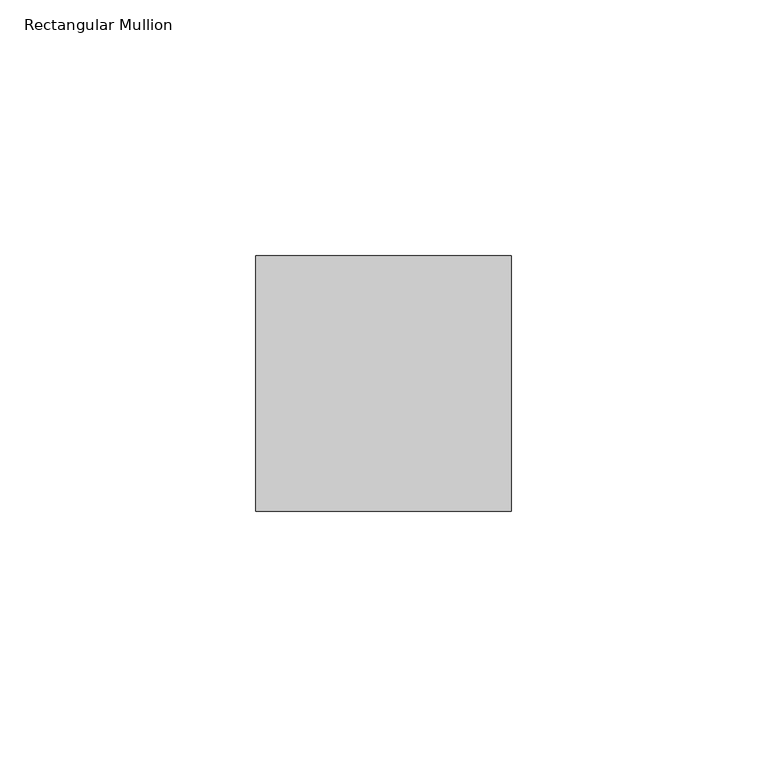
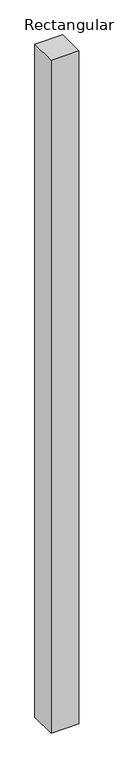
"""IFC4 building model written with IfcOpenShell, lengths in millimetres: member geometry, Rectangular Mullion : Mullion_Curtain Wall_Generic Showcase_50x50mm."""

from ifc_helpers import new_model, si_unit, frame, origin, place, context, project, spatial, polyline, outline, extrude, source, transform, mapped, element, save


def rectangular_mullion_9c751ba5(model_context):
    return source(origin(), model_context, "Body", "SweptSolid", [
        extrude(outline(polyline([(25.0, 50.0), (25.0, 0.0), (-25.0, 0.0), (-25.0, 50.0), (25.0, 50.0)])), frame((0.0, 0.0, -1275.0), z_axis=(0.0, 0.0, 1.0), x_axis=(1.0, 0.0, 0.0)), (0.0, 0.0, 1.0), 1275.0),
    ])


if __name__ == "__main__":
    model = new_model("IFC4")
    model_context = context("Model", 3, world=origin())
    ifc_project = project(units=[si_unit("LENGTHUNIT", "METRE", prefix="MILLI")], contexts=[model_context])
    site = spatial("IfcSite", under=ifc_project)
    building = spatial("IfcBuilding", under=site)
    placement = place(None, origin())
    rectangular_mullion_shape = rectangular_mullion_9c751ba5(model_context)
    element("IfcMember", 1, ObjectType="Rectangular Mullion : Mullion_Curtain Wall_Generic Showcase_50x50mm", at=placement, inside=building, context=model_context, shape_type="MappedRepresentation", body=[
        mapped(rectangular_mullion_shape, transform((0.0, 0.0, 0.0), x_axis=(1.0, 0.0, 0.0), y_axis=(0.0, 1.0, 0.0), z_axis=(0.0, 0.0, 1.0))),
    ])
    save(model, "model.ifc")
